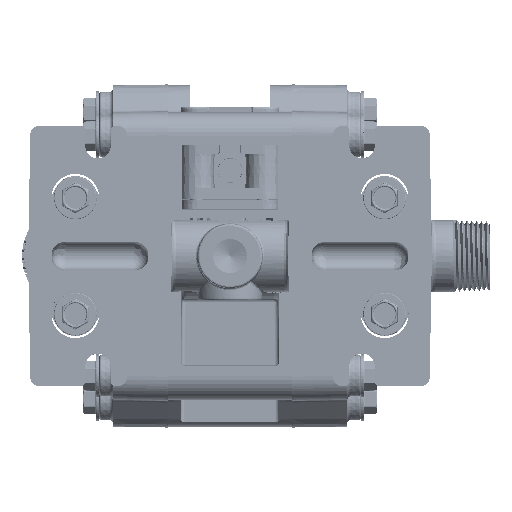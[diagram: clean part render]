
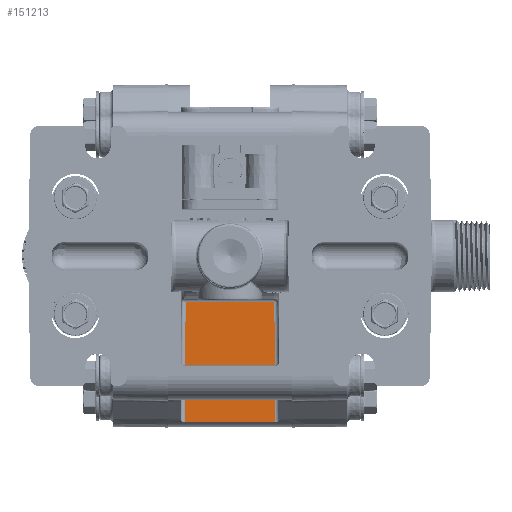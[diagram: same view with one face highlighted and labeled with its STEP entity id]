
A CAD part, front view. The second image highlights one B-rep face of the part: STEP entity #151213.
In plain terms, the highlighted planar face has unit normal (0, -1, -0.009).
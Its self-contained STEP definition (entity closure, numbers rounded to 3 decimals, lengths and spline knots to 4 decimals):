
#2476=DIRECTION('',(1.,0.,0.));
#2477=VECTOR('',#2476,1.2957);
#2478=CARTESIAN_POINT('',(-0.6479,-0.2322,
-0.6795));
#2479=LINE('',#2478,#2477);
#2480=DIRECTION('',(-0.009,-0.009,1.));
#2481=VECTOR('',#2480,1.7508);
#2482=CARTESIAN_POINT('',(0.6631,-0.2169,
-2.4301));
#2483=LINE('',#2482,#2481);
#2484=DIRECTION('',(1.,0.,0.));
#2485=VECTOR('',#2484,1.3263);
#2486=CARTESIAN_POINT('',(-0.6631,-0.2169,
-2.4301));
#2487=LINE('',#2486,#2485);
#2488=DIRECTION('',(-0.009,0.009,-1.));
#2489=VECTOR('',#2488,1.7508);
#2490=CARTESIAN_POINT('',(-0.6479,-0.2322,
-0.6795));
#2491=LINE('',#2490,#2489);
#2492=CARTESIAN_POINT('',(0.6631,-0.2169,
-2.4301));
#135654=CARTESIAN_POINT('',(-0.6479,-0.2322,
-0.6795));
#135655=VERTEX_POINT('',#135654);
#138131=CARTESIAN_POINT('',(-0.6631,-0.2169,
-2.4301));
#138132=VERTEX_POINT('',#138131);
#140334=CARTESIAN_POINT('',(0.6479,-0.2322,
-0.6795));
#140335=VERTEX_POINT('',#140334);
#141191=VERTEX_POINT('',#2492);
#151200=CARTESIAN_POINT('',(0.,-0.2245,-1.5548));
#151201=DIRECTION('',(0.,1.,0.009));
#151202=DIRECTION('',(1.,0.,0.));
#151203=AXIS2_PLACEMENT_3D('',#151200,#151201,#151202);
#151204=PLANE('',#151203);
#151206=ORIENTED_EDGE('',*,*,#151205,.F.);
#151207=ORIENTED_EDGE('',*,*,#150436,.F.);
#151209=ORIENTED_EDGE('',*,*,#151208,.F.);
#151210=ORIENTED_EDGE('',*,*,#151191,.T.);
#151211=EDGE_LOOP('',(#151206,#151207,#151209,#151210));
#151212=FACE_OUTER_BOUND('',#151211,.F.);
#151213=ADVANCED_FACE('',(#151212),#151204,.F.);
#150436=EDGE_CURVE('',#138132,#141191,#2487,.T.);
#151191=EDGE_CURVE('',#135655,#140335,#2479,.T.);
#151205=EDGE_CURVE('',#141191,#140335,#2483,.T.);
#151208=EDGE_CURVE('',#135655,#138132,#2491,.T.);
